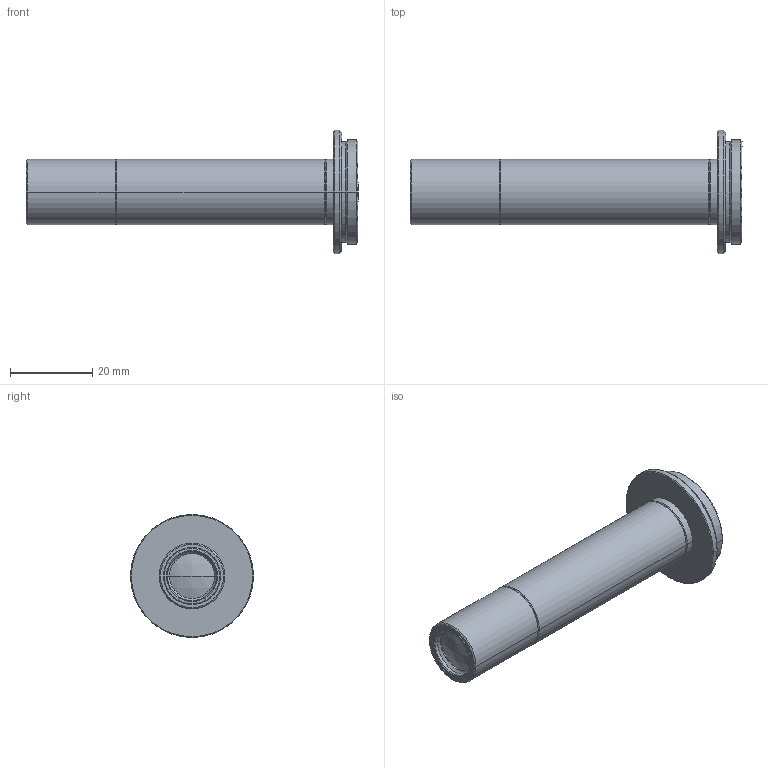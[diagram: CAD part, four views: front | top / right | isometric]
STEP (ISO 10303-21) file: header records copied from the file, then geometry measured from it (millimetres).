
FILE_DESCRIPTION (( 'STEP AP203' ), '1' );
FILE_NAME ('VS-MC1-80.STEP', '2016-08-29T05:48:39', ( 'miura_vst' ), ( '' ), 'SwSTEP 2.0', 'SolidWorks 2016', '' );
FILE_SCHEMA (( 'CONFIG_CONTROL_DESIGN' ));
Length unit declared in the file: millimetre
Products named in the file (1): VS-MC1-80
Bounding box: 80.91 x 30 x 30 mm (x, y, z)
Volume: 9560.1 mm3; surface area: 8507.9 mm2
Topology: 1 solids, 1 shells, 90 faces, 178 edges, 100 vertices
Faces by surface type: cone 48, cylinder 28, plane 10, sphere 4
Entity records: 2373 total; most frequent: DIRECTION 462, CARTESIAN_POINT 369, ORIENTED_EDGE 356, AXIS2_PLACEMENT_3D 193, EDGE_CURVE 178, CIRCLE 102, VERTEX_POINT 100, EDGE_LOOP 100
